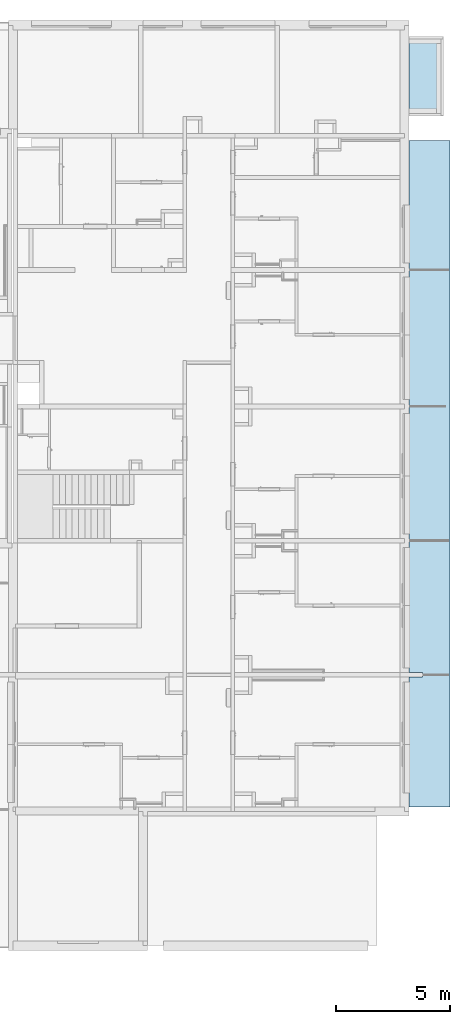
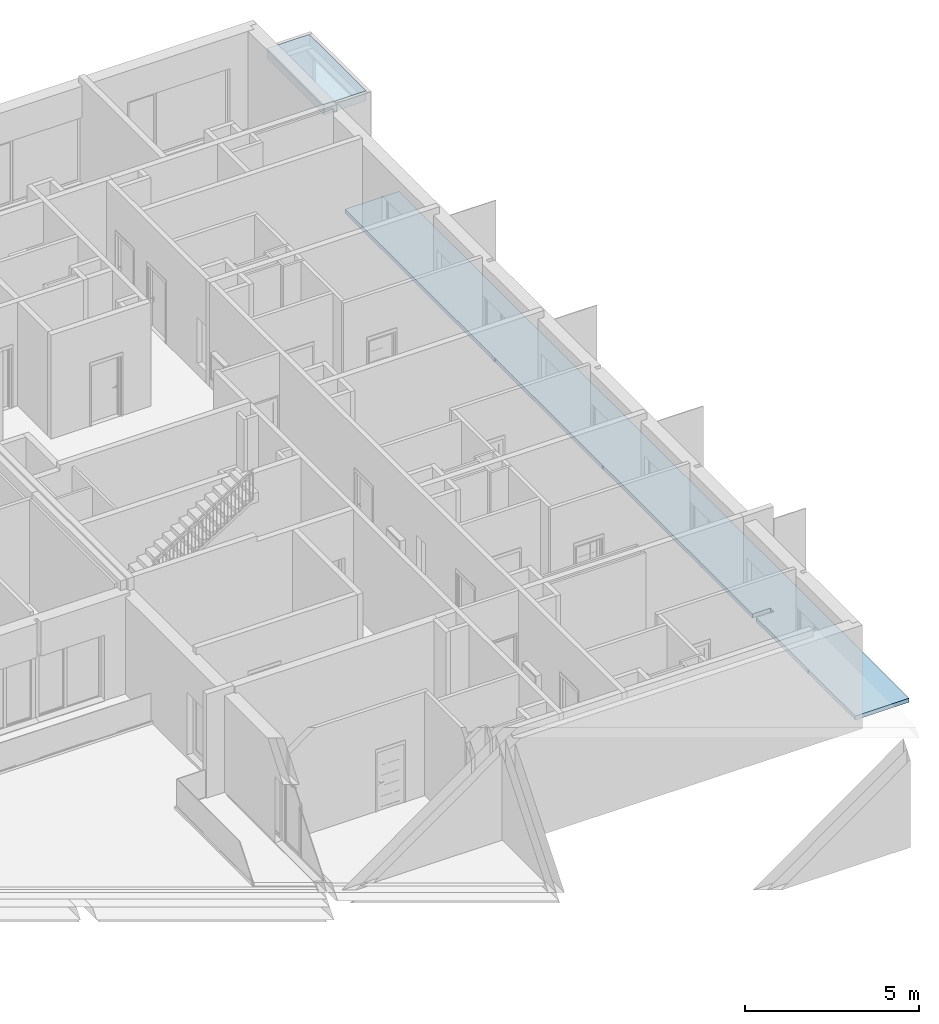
# One storey, part 4 of 46: 2 slabs.
"""IFC2X3 building model written with IfcOpenShell, lengths in millimetres."""

import ifcopenshell
import ifcopenshell.guid

model = None  # the IFC model being written
_history = None  # IfcOwnerHistory: only IFC2X3 demands one
_inside = {}  # id of a spatial element -> (the spatial element, [elements in it])
_under = {}  # id of a project, library or spatial element -> (it, [spatial elements below it])
_declared = {}  # id of a project -> (the project, [libraries it declares])
_typed = {}  # id of a type object -> (the type object, [elements of that type])
_made_of = {}  # id of a material, layer set ... -> (it, [elements and type objects made of it])


def new_model(schema):
    """Start an empty IFC model of exactly this schema.

    Asked for "IFC4X3", IfcOpenShell would pick the latest addendum, in which some entities
    have other attributes; the version numbers below select the first issue.
    IFC2X3 requires an IfcOwnerHistory on every rooted entity: one is made here for all.
    """
    global model, _history
    if schema == "IFC4X3":
        model = ifcopenshell.file(schema_version=(4, 3, 0, 0))
    else:
        model = ifcopenshell.file(schema=schema)
    _inside.clear()
    _under.clear()
    _declared.clear()
    _typed.clear()
    _made_of.clear()
    _history = None
    if model.schema == "IFC2X3":
        org = make("IfcOrganization", Name="unknown")
        user = make(
            "IfcPersonAndOrganization",
            ThePerson=make("IfcPerson", FamilyName="unknown"),
            TheOrganization=org,
        )
        app = make(
            "IfcApplication",
            ApplicationDeveloper=org,
            Version="unknown",
            ApplicationFullName="unknown",
            ApplicationIdentifier="unknown",
        )
        _history = make(
            "IfcOwnerHistory",
            OwningUser=user,
            OwningApplication=app,
            ChangeAction="ADDED",
            CreationDate=0,
        )
    return model


def make(cls, **values):
    """One entity of the class cls with the attributes given. An attribute that is None is left unset."""
    return model.create_entity(
        cls, **{name: value for name, value in values.items() if value is not None}
    )


def entity(cls, *values):
    """Any entity or typed value of the class cls, its attributes in the order of the schema. None: left unset."""
    e = model.create_entity(cls)
    for i, value in enumerate(values):
        if value is not None:
            e[i] = value
    return e


def rooted(cls, **values):
    """An entity with a GlobalId (a new one), such as an element, a storey or a relation."""
    return make(cls, GlobalId=ifcopenshell.guid.new(), OwnerHistory=_history, **values)


def si_unit(unit_type, name, prefix=None):
    """IfcSIUnit, for example si_unit("LENGTHUNIT", "METRE", prefix="MILLI")."""
    return make("IfcSIUnit", UnitType=unit_type, Prefix=prefix, Name=name)


def converted_unit(unit_type, name, factor, base, dimensions=None, offset=None):
    """IfcConversionBasedUnit, such as the inch: factor (a typed value) times the base unit."""
    return make(
        "IfcConversionBasedUnit"
        if offset is None
        else "IfcConversionBasedUnitWithOffset",
        ConversionOffset=offset,
        Dimensions=None
        if dimensions is None
        else entity("IfcDimensionalExponents", *dimensions),
        UnitType=unit_type,
        Name=name,
        ConversionFactor=make(
            "IfcMeasureWithUnit", ValueComponent=factor, UnitComponent=base
        ),
    )


def derived_unit(unit_type, elements):
    """IfcDerivedUnit: a product of units, each with its exponent."""
    return make(
        "IfcDerivedUnit",
        Elements=[
            make("IfcDerivedUnitElement", Unit=unit, Exponent=power)
            for unit, power in elements
        ],
        UnitType=unit_type,
    )


def money_unit(currency):
    """IfcMonetaryUnit."""
    return make("IfcMonetaryUnit", Currency=currency)


def assignment(units):
    """IfcUnitAssignment: the units of a project."""
    return None if units is None else make("IfcUnitAssignment", Units=units)


def point(xyz):
    """IfcCartesianPoint."""
    return None if xyz is None else make("IfcCartesianPoint", Coordinates=xyz)


def direction(xyz):
    """IfcDirection."""
    return None if xyz is None else make("IfcDirection", DirectionRatios=xyz)


def frame(location, z_axis=None, x_axis=None):
    """IfcAxis2Placement3D, a coordinate frame: its origin and axes. An axis left out is left unset."""
    return make(
        "IfcAxis2Placement3D",
        Location=point(location),
        Axis=direction(z_axis),
        RefDirection=direction(x_axis),
    )


def origin_with_axes():
    """The frame at (0, 0, 0) with the z axis (0, 0, 1) and the x axis (1, 0, 0) written out."""
    return frame((0.0, 0.0, 0.0), z_axis=(0.0, 0.0, 1.0), x_axis=(1.0, 0.0, 0.0))


def place(relative_to, where):
    """IfcLocalPlacement: puts the frame where relative to a parent placement (None: the world)."""
    return make(
        "IfcLocalPlacement", PlacementRelTo=relative_to, RelativePlacement=where
    )


def context(
    kind, dimensions, precision=None, world=None, true_north=None, identifier=None
):
    """IfcGeometricRepresentationContext, for example the 3D "Model" context."""
    return make(
        "IfcGeometricRepresentationContext",
        ContextIdentifier=identifier,
        ContextType=kind,
        CoordinateSpaceDimension=dimensions,
        Precision=precision,
        WorldCoordinateSystem=world,
        TrueNorth=true_north,
    )


def subcontext(parent, identifier, kind, view, scale=None):
    """IfcGeometricRepresentationSubContext, for example "Body" below "Model"."""
    return make(
        "IfcGeometricRepresentationSubContext",
        ContextIdentifier=identifier,
        ContextType=kind,
        ParentContext=parent,
        TargetScale=scale,
        TargetView=view,
    )


def project(units=None, contexts=None):
    """IfcProject with its units and contexts."""
    return rooted(
        "IfcProject",
        Name="project",
        RepresentationContexts=contexts,
        UnitsInContext=assignment(units),
    )


def spatial(cls, under=None, at=None, **own):
    """A site, building, storey or space (cls), placed at a placement, below another one or the project."""
    s = rooted(cls, ObjectPlacement=at, **own)
    if under is not None:
        _under.setdefault(under.id(), (under, []))[1].append(s)
    return s


def faces_of(points, faces, orient=None, outer=None):
    """IfcFace entities. A face is a list of loops; a loop is a list of indices into points, from 0.

    orient and outer hold one flag for each loop. By default every Orientation is true, the
    first loop of a face is its IfcFaceOuterBound and the others are IfcFaceBound.
    """
    made = []
    for i, loops in enumerate(faces):
        bounds = []
        for j, loop in enumerate(loops):
            is_outer = j == 0 if outer is None else outer[i][j]
            bounds.append(
                make(
                    "IfcFaceOuterBound" if is_outer else "IfcFaceBound",
                    Bound=make("IfcPolyLoop", Polygon=[points[k] for k in loop]),
                    Orientation=True if orient is None else orient[i][j],
                )
            )
        made.append(make("IfcFace", Bounds=bounds))
    return made


def faceted_brep(points, faces, orient=None, outer=None, voids=None):
    """IfcFacetedBrep: a solid bounded by flat faces; with voids (closed shells), ...WithVoids."""
    shared = [point(p) for p in points]
    hull = make("IfcClosedShell", CfsFaces=faces_of(shared, faces, orient, outer))
    if voids is None:
        return make("IfcFacetedBrep", Outer=hull)
    return make(
        "IfcFacetedBrepWithVoids",
        Outer=hull,
        Voids=[
            make(cls, CfsFaces=faces_of(shared, fs, o, b)) for cls, fs, o, b in voids
        ],
    )


def shape(context_of_items, identifier, shape_type, items):
    """IfcShapeRepresentation: the items that make up one representation, for example the "Body"."""
    return make(
        "IfcShapeRepresentation",
        ContextOfItems=context_of_items,
        RepresentationIdentifier=identifier,
        RepresentationType=shape_type,
        Items=items,
    )


def material(Name=None, Category=None):
    """IfcMaterial."""
    return make("IfcMaterial", Name=Name, Category=Category)


def material_list(materials):
    """IfcMaterialList."""
    return make("IfcMaterialList", Materials=materials)


def made_of(thing, what):
    """Note that an element or type object is made of a material, layer set ...; save() writes the relation."""
    if what is not None:
        _made_of.setdefault(what.id(), (what, []))[1].append(thing)
    return thing


def type_object(cls, material=None, **own):
    """A type object (cls), such as IfcWallType, which elements share."""
    return made_of(rooted(cls, **own), material)


def element(
    cls,
    number,
    at=None,
    inside=None,
    cuts=None,
    type_object=None,
    material=None,
    context=None,
    identifier="Body",
    shape_type=None,
    held_by="IfcProductDefinitionShape",
    body=None,
    shapes=None,
    **own,
):
    """One element of the class cls, such as IfcWall. Its Tag is "e" and its number.

    at: its placement. inside: the storey or other place that contains it. cuts: it is an
    opening in that element (IfcRelVoidsElement). A single representation is given by context,
    identifier, shape_type and body (its items); several are given by shapes. held_by: the class
    of the entity that holds the representations. save() writes the other relations.
    """
    e = rooted(cls, Tag="e%d" % number, ObjectPlacement=at, **own)
    if body is not None:
        shapes = [shape(context, identifier, shape_type, body)]
    if shapes is not None:
        e.Representation = make(held_by, Representations=shapes)
    if inside is not None:
        _inside.setdefault(inside.id(), (inside, []))[1].append(e)
    if cuts is not None:
        rooted(
            "IfcRelVoidsElement", RelatingBuildingElement=cuts, RelatedOpeningElement=e
        )
    if type_object is not None:
        _typed.setdefault(type_object.id(), (type_object, []))[1].append(e)
    return made_of(e, material)


def aggregate(whole, parts):
    """IfcRelAggregates: a whole, such as a stair, and the parts it consists of."""
    return rooted("IfcRelAggregates", RelatingObject=whole, RelatedObjects=parts)


def save(model, path):
    """Write the relations noted so far, then the file.

    IfcRelAggregates (storeys below a building ...), IfcRelContainedInSpatialStructure (elements
    in a storey), IfcRelDefinesByType, IfcRelAssociatesMaterial and IfcRelDeclares: one each for
    every whole, place, type object, material and project.
    """
    for whole, parts in _under.values():
        aggregate(whole, parts)
    for where, things in _inside.values():
        rooted(
            "IfcRelContainedInSpatialStructure",
            RelatedElements=things,
            RelatingStructure=where,
        )
    for kind, things in _typed.values():
        rooted("IfcRelDefinesByType", RelatedObjects=things, RelatingType=kind)
    for what, things in _made_of.values():
        rooted("IfcRelAssociatesMaterial", RelatedObjects=things, RelatingMaterial=what)
    for by, libraries in _declared.values():
        rooted("IfcRelDeclares", RelatingContext=by, RelatedDefinitions=libraries)
    model.write(path)


model = new_model("IFC2X3")

# Units and contexts
model_context = context("Model", 3, precision=0.01, world=origin_with_axes(), true_north=direction((0.34421633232, 0.938890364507)))
body_context = subcontext(model_context, "Body", "Model", "MODEL_VIEW")
ifc_project = project(units=[si_unit("LENGTHUNIT", "METRE", prefix="MILLI"), si_unit("AREAUNIT", "SQUARE_METRE"), si_unit("VOLUMEUNIT", "CUBIC_METRE"), converted_unit("PLANEANGLEUNIT", "DEGREE", entity("IfcPlaneAngleMeasure", 0.0174532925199), si_unit("PLANEANGLEUNIT", "RADIAN"), dimensions=[0, 0, 0, 0, 0, 0, 0]), si_unit("SOLIDANGLEUNIT", "STERADIAN"), money_unit("USD"), converted_unit("TIMEUNIT", "Year", entity("IfcTimeMeasure", 31556926.0), si_unit("TIMEUNIT", "SECOND"), dimensions=[0, 0, 1, 0, 0, 0, 0]), si_unit("MASSUNIT", "GRAM", prefix="KILO"), si_unit("THERMODYNAMICTEMPERATUREUNIT", "DEGREE_CELSIUS"), si_unit("LUMINOUSINTENSITYUNIT", "LUMEN"), si_unit("ENERGYUNIT", "JOULE", prefix="MEGA"), derived_unit("THERMALCONDUCTANCEUNIT", [(si_unit("POWERUNIT", "WATT"), 1), (si_unit("LENGTHUNIT", "METRE"), -1), (si_unit("THERMODYNAMICTEMPERATUREUNIT", "KELVIN"), -1)]), derived_unit("SPECIFICHEATCAPACITYUNIT", [(si_unit("ENERGYUNIT", "JOULE"), 1), (si_unit("MASSUNIT", "GRAM", prefix="KILO"), -1), (si_unit("THERMODYNAMICTEMPERATUREUNIT", "KELVIN"), -1)]), derived_unit("MASSDENSITYUNIT", [(si_unit("MASSUNIT", "GRAM", prefix="KILO"), 1), (si_unit("VOLUMEUNIT", "CUBIC_METRE"), -1)])], contexts=[model_context])

# Site, building, storey
site_placement = place(None, origin_with_axes())
site = spatial("IfcSite", under=ifc_project, at=site_placement, Name="USTRONIE MORSKIE", CompositionType="ELEMENT")
building_placement = place(site_placement, origin_with_axes())
building = spatial("IfcBuilding", under=site, at=building_placement, Name="Budynek", CompositionType="ELEMENT")
storey_placement = place(building_placement, origin_with_axes())
storey = spatial("IfcBuildingStorey", under=building, at=storey_placement, Name="PARTER", CompositionType="ELEMENT", Elevation=0.0)

# Slabs
ifc_material_1 = material(Name="Termoizolacja PIR")
ifc_material_2 = material(Name="Paroizolacja")
ifc_material_3 = material(Name="Beton konstrukcyjny B25")
ifc_material_list = material_list([ifc_material_1, ifc_material_2, ifc_material_3])
slab_type_1 = type_object("IfcSlabType", Name="509-PS STROP DACH PŁASKI PIR 355", PredefinedType="FLOOR")
slab_1_placement = place(storey_placement, frame((427367.920919, 745591.199036, 2900.0), z_axis=(0.0, 0.0, 1.0), x_axis=(1.0, 0.0, 0.0)))
element("IfcSlab", 1, at=slab_1_placement, inside=storey, type_object=slab_type_1, material=ifc_material_list, Name="P1", PredefinedType="FLOOR", context=body_context, shape_type="Brep", body=[
    faceted_brep([(-1500.0, 100.0, 0.0), (-100.0, 100.0, 0.0), (-100.0, 3360.0, 0.0), (-1500.0, 3360.0, 0.0), (-100.0, 100.0, -150.0), (-1500.0, 100.0, -150.0), (-100.0, 3360.0, -150.0), (-1500.0, 3360.0, -150.0)], [[[0, 1, 2, 3]], [[4, 1, 0, 5]], [[1, 4, 6, 2]], [[2, 6, 7, 3]], [[5, 0, 3, 7]], [[4, 5, 7, 6]]]),
    faceted_brep([(-1500.0, 100.0, -150.0), (-100.0, 100.0, -150.0), (-100.0, 3360.0, -150.0), (-1500.0, 3360.0, -150.0), (-100.0, 100.0, -155.0), (-1500.0, 100.0, -155.0), (-100.0, 3360.0, -155.0), (-1500.0, 3360.0, -155.0)], [[[0, 1, 2, 3]], [[4, 1, 0, 5]], [[1, 4, 6, 2]], [[2, 6, 7, 3]], [[5, 0, 3, 7]], [[4, 5, 7, 6]]]),
    faceted_brep([(-1500.0, 100.0, -155.0), (-100.0, 100.0, -155.0), (-100.0, 3360.0, -155.0), (-1500.0, 3360.0, -155.0), (-100.0, 100.0, -355.0), (-1500.0, 100.0, -355.0), (-100.0, 3360.0, -355.0), (-1500.0, 3360.0, -355.0)], [[[0, 1, 2, 3]], [[4, 1, 0, 5]], [[1, 4, 6, 2]], [[2, 6, 7, 3]], [[5, 0, 3, 7]], [[4, 5, 7, 6]]]),
])
ifc_material_4 = material(Name="Laminat")
slab_type_2 = type_object("IfcSlabType", Name="Laminat 140", PredefinedType="FLOOR")
slab_2_placement = place(storey_placement, frame((425867.765111, 715201.199036, -40.0), z_axis=(0.0, 0.0, 1.0), x_axis=(1.0, 0.0, 0.0)))
element("IfcSlab", 2, at=slab_2_placement, inside=storey, type_object=slab_type_2, material=ifc_material_4, Name="P3", PredefinedType="FLOOR", context=body_context, shape_type="Brep", body=[
    faceted_brep([(600.155807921, 5900.0, 0.0), (600.155807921, 5700.0, 0.0), (10.1558079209, 5700.0, 0.0), (10.1558079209, 2810.01935038, 0.0), (0.0127831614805, 2810.01935038, 0.0), (0.012237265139, 2690.01935038, 0.0), (10.1558079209, 2690.01935038, 0.0), (10.1558079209, 0.0, 0.0), (1799.99847113, 0.0, 0.0), (1800.15580792, 29300.0, 0.0), (10.1558079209, 29300.0, 0.0), (10.1558079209, 20809.9806496, 0.0), (0.0946674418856, 20809.9806496, 0.0), (0.0941215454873, 20689.9806496, 0.0), (10.1558079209, 20689.9806496, 0.0), (10.1558079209, 14610.0193504, 0.0), (0.0664629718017, 14610.0193504, 0.0), (0.0659170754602, 14490.0193504, 0.0), (10.1558079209, 14490.0193504, 0.0), (10.1558079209, 8909.98064962, 0.0), (0.0405327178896, 8909.98064962, 0.0), (0.0399868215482, 8789.98064962, 0.0), (10.1558079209, 8789.98064962, 0.0), (10.1558079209, 5900.0, 0.0), (600.155807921, 5700.0, -140.0), (600.155807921, 5900.0, -140.0), (10.1558079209, 5700.0, -140.0), (10.1558079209, 2810.01935038, -140.0), (0.0127831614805, 2810.01935038, -140.0), (0.012237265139, 2690.01935038, -140.0), (10.1558079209, 2690.01935038, -140.0), (10.1558079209, 0.0, -140.0), (1799.99847113, 0.0, -140.0), (1800.15580792, 29300.0, -140.0), (10.1558079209, 29300.0, -140.0), (10.1558079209, 20809.9806496, -140.0), (0.0946674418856, 20809.9806496, -140.0), (0.0941215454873, 20689.9806496, -140.0), (10.1558079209, 20689.9806496, -140.0), (10.1558079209, 14610.0193504, -140.0), (0.0664629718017, 14610.0193504, -140.0), (0.0659170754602, 14490.0193504, -140.0), (10.1558079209, 14490.0193504, -140.0), (10.1558079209, 8909.98064962, -140.0), (0.0405327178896, 8909.98064962, -140.0), (0.0399868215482, 8789.98064962, -140.0), (10.1558079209, 8789.98064962, -140.0), (10.1558079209, 5900.0, -140.0)], [[[0, 1, 2, 3, 4, 5, 6, 7, 8, 9, 10, 11, 12, 13, 14, 15, 16, 17, 18, 19, 20, 21, 22, 23]], [[24, 1, 0, 25]], [[26, 2, 1, 24]], [[3, 2, 26, 27]], [[3, 27, 28, 4]], [[5, 4, 28, 29]], [[30, 6, 5, 29]], [[31, 7, 6, 30]], [[8, 7, 31, 32]], [[9, 8, 32, 33]], [[33, 34, 10, 9]], [[10, 34, 35, 11]], [[11, 35, 36, 12]], [[36, 37, 13, 12]], [[38, 14, 13, 37]], [[39, 15, 14, 38]], [[15, 39, 40, 16]], [[41, 17, 16, 40]], [[42, 18, 17, 41]], [[43, 19, 18, 42]], [[19, 43, 44, 20]], [[44, 45, 21, 20]], [[46, 22, 21, 45]], [[46, 47, 23, 22]], [[25, 0, 23, 47]], [[24, 25, 47, 46, 45, 44, 43, 42, 41, 40, 39, 38, 37, 36, 35, 34, 33, 32, 31, 30, 29, 28, 27, 26]]]),
])

save(model, "model.ifc")
